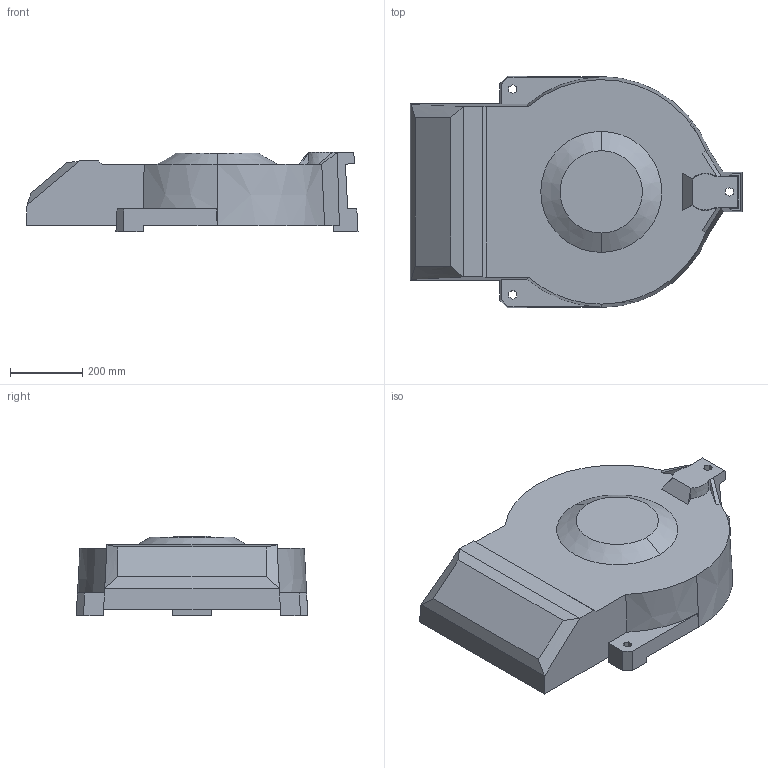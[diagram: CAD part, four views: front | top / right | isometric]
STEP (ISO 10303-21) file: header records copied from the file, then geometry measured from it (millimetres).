
FILE_DESCRIPTION (( 'STEP AP214' ), '1' );
FILE_NAME ('IRB4400_60_m2000_rev1_01-1.STEP', '2001-11-21T06:34:13', ( 'Jonas Eriksson' ), ( 'Evotech Engineering AB' ), 'SwSTEP 2.0', 'SolidWorks 2001287', '' );
FILE_SCHEMA (( 'AUTOMOTIVE_DESIGN' ));
Length unit declared in the file: millimetre
Products named in the file (1): IRB4400_60_m2000_rev1_01-1
Bounding box: 920 x 641.78 x 220 mm (x, y, z)
Volume: 75696125.6 mm3; surface area: 1410671.8 mm2
Topology: 1 solids, 1 shells, 89 faces, 247 edges, 157 vertices
Faces by surface type: plane 76, cone 7, bspline 6
Entity records: 3355 total; most frequent: CARTESIAN_POINT 1104, ORIENTED_EDGE 490, DIRECTION 408, EDGE_CURVE 245, LINE 210, VECTOR 210, VERTEX_POINT 157, AXIS2_PLACEMENT_3D 99
